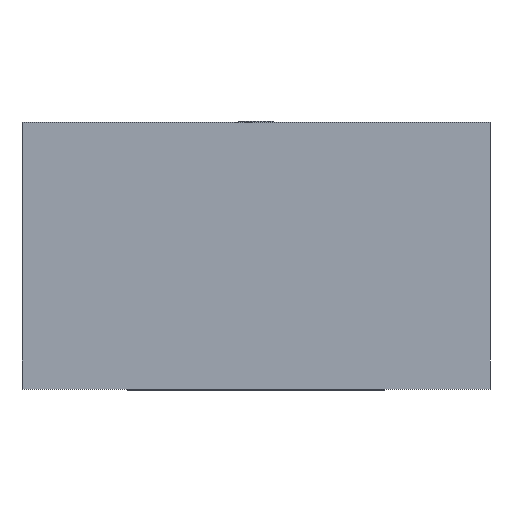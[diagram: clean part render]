
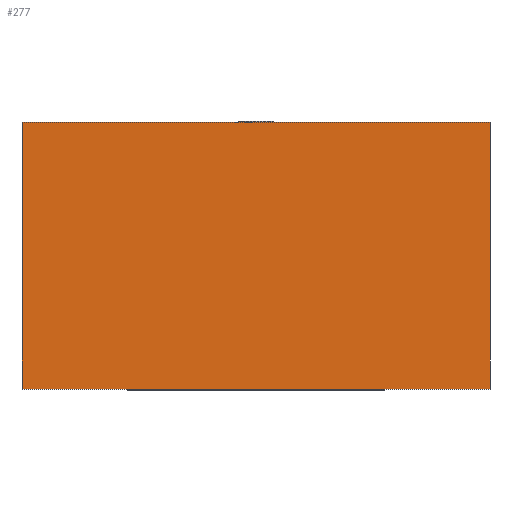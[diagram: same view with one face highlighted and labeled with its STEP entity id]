
A CAD part, left-side view. The second image highlights one B-rep face of the part: STEP entity #277.
In plain terms, the highlighted planar face has unit normal (-1, 0, 0).
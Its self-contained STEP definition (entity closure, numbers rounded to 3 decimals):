
#143=CARTESIAN_POINT('',(-1.397,-0.952,0.006));
#142=VERTEX_POINT('',#143);
#161=CARTESIAN_POINT('',(-1.397,-0.952,1.092));
#160=VERTEX_POINT('',#161);
#169=EDGE_CURVE('',#142,#160,#174,.T.);
#174=LINE('',#143,#176);
#176=VECTOR('',#177,1.086);
#177=DIRECTION('',(0.0,0.0,1.0));
#239=CARTESIAN_POINT('',(-1.397,0.952,0.006));
#238=VERTEX_POINT('',#239);
#249=CARTESIAN_POINT('',(-1.397,0.952,1.092));
#248=VERTEX_POINT('',#249);
#247=EDGE_CURVE('',#248,#238,#252,.T.);
#252=LINE('',#249,#254);
#254=VECTOR('',#255,1.086);
#255=DIRECTION('',(0.0,0.0,-1.0));
#277=ADVANCED_FACE('',(#283),#278,.T.);
#278=PLANE('',#279);
#279=AXIS2_PLACEMENT_3D('',#280,#281,#282);
#280=CARTESIAN_POINT('',(-1.397,0.952,0.006));
#281=DIRECTION('',(-1.0,0.0,0.0));
#282=DIRECTION('',(0.,0.,1.));
#283=FACE_OUTER_BOUND('',#284,.T.);
#284=EDGE_LOOP('',(#285,#295,#305,#315));
#286=EDGE_CURVE('',#142,#238,#291,.T.);
#291=LINE('',#143,#293);
#293=VECTOR('',#294,1.905);
#294=DIRECTION('',(0.0,1.0,0.0));
#285=ORIENTED_EDGE('',*,*,#286,.F.);
#295=ORIENTED_EDGE('',*,*,#169,.T.);
#306=EDGE_CURVE('',#248,#160,#311,.T.);
#311=LINE('',#249,#313);
#313=VECTOR('',#314,1.905);
#314=DIRECTION('',(0.0,-1.0,0.0));
#305=ORIENTED_EDGE('',*,*,#306,.F.);
#315=ORIENTED_EDGE('',*,*,#247,.T.);
